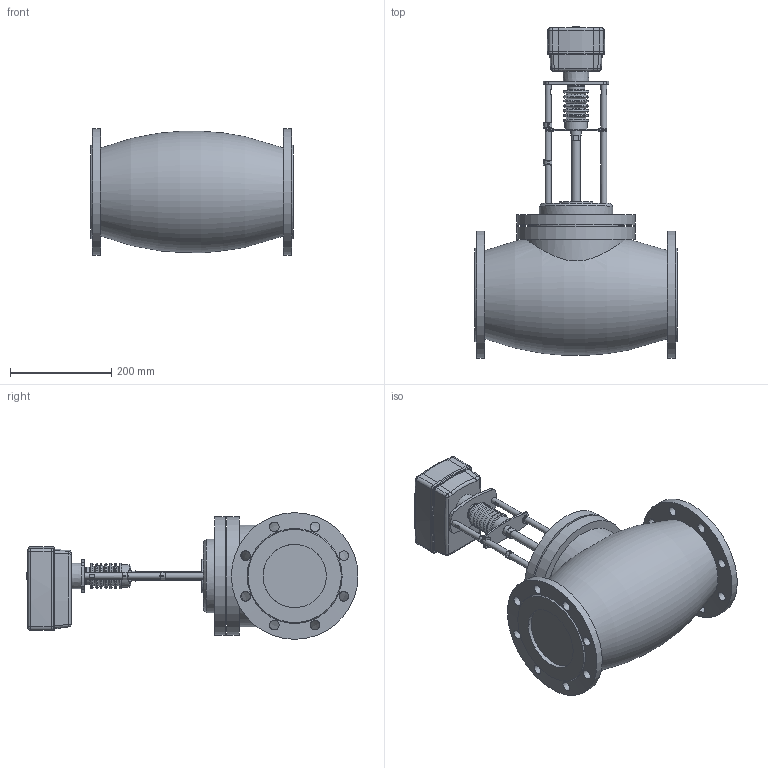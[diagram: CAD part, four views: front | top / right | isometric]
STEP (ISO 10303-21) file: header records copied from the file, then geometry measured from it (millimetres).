
FILE_DESCRIPTION(/* description */ ('Unknown'),/* implementation_level */ '2;1');
FILE_NAME(/* name */ 'Клапан TRV-125-120',/* time_stamp */ '2021-12-06T16:31:15+03:00',/* author */ ('Unknown'),/* organization */ ('Unknown'),/* preprocessor_version */ 'ST-DEVELOPER v16.7',/* originating_system */ 'DEX',/* authorisation */ $);
FILE_SCHEMA (('AUTOMOTIVE_DESIGN {1 0 10303 214 3 1 1}'));
Length unit declared in the file: millimetre
Products named in the file (1): 抔黽鳧 TRV-125-120
Bounding box: 400 x 655.4 x 250 mm (x, y, z)
Volume: 19395366.5 mm3; surface area: 699261.5 mm2
Topology: 2 solids, 3 shells, 328 faces, 850 edges, 547 vertices
Faces by surface type: plane 153, cylinder 84, torus 36, cone 35, bspline 16, sphere 4
Full cylindrical faces by diameter (mm): 12.002 x4, 15 x1, 16 x1, 19 x16, 20 x1, 35.301 x2, 35.4 x1, 45.4 x1, 49.272 x1, 66.12 x1, 178 x1, 234 x2, 250 x2
Entity records: 13181 total; most frequent: CARTESIAN_POINT 3449, DIRECTION 1531, ORIENTED_EDGE 1432, EDGE_CURVE 716, AXIS2_PLACEMENT_3D 602, VERTEX_POINT 489, EDGE_LOOP 465, FACE_BOUND 465
